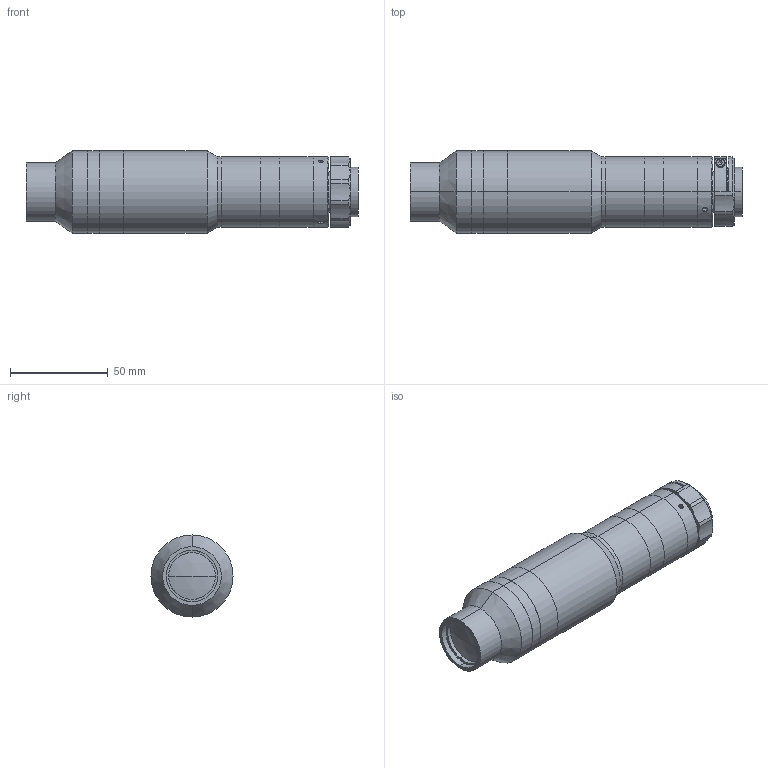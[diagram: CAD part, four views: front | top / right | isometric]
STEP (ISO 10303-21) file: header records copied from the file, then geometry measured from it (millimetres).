
FILE_DESCRIPTION (( 'STEP AP203' ), '1' );
FILE_NAME ('XF-MH05X250.STEP', '2020-08-24T07:12:43', ( 'canrill-02' ), ( '' ), 'SwSTEP 2.0', 'SolidWorks 2014', '' );
FILE_SCHEMA (( 'CONFIG_CONTROL_DESIGN' ));
Length unit declared in the file: millimetre
Products named in the file (1): XF-MH05X250
Bounding box: 169.83 x 42 x 42 mm (x, y, z)
Surface area: 27127.9 mm2 (no closed solid volume)
Topology: 0 solids, 14 shells, 118 faces, 314 edges, 212 vertices
Faces by surface type: cylinder 53, plane 44, cone 17, sphere 2, torus 2
Entity records: 4052 total; most frequent: CARTESIAN_POINT 964, DIRECTION 693, ORIENTED_EDGE 533, EDGE_CURVE 312, AXIS2_PLACEMENT_3D 285, VERTEX_POINT 212, CIRCLE 166, EDGE_LOOP 144
